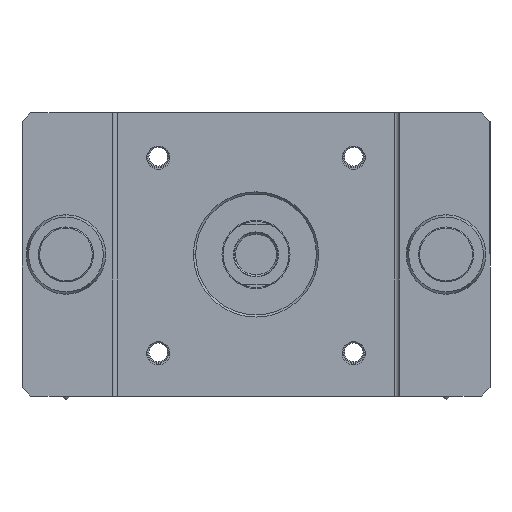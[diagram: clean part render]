
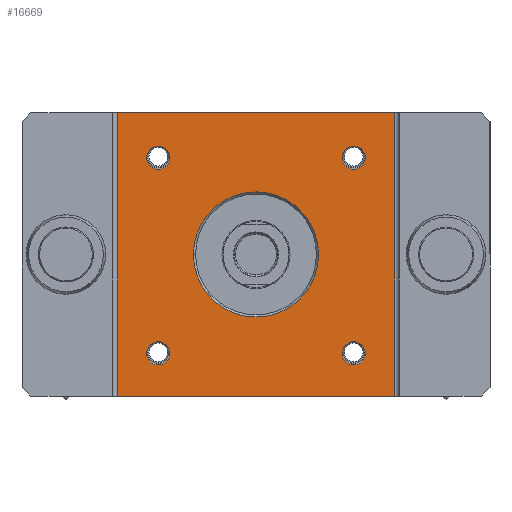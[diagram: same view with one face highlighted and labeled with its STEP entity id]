
A CAD part, left-side view. The second image highlights one B-rep face of the part: STEP entity #16669.
In plain terms, the highlighted planar face has unit normal (-1, 0, 0).
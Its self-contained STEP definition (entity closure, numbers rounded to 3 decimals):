
#163 = VERTEX_POINT ( 'NONE', #24541 ) ;
#172 = EDGE_CURVE ( 'NONE', #163, #200, #24588, .T. ) ;
#200 = VERTEX_POINT ( 'NONE', #24669 ) ;
#2889 = VERTEX_POINT ( 'NONE', #25452 ) ;
#5254 = VERTEX_POINT ( 'NONE', #25631 ) ;
#5403 = EDGE_CURVE ( 'NONE', #5254, #2889, #25630, .T. ) ;
#11423 = CARTESIAN_POINT ( 'NONE',  ( 18., 49.75, 19.5 ) ) ;
#11424 = CARTESIAN_POINT ( 'NONE',  ( 18., 39.25, 19.5 ) ) ;
#11668 = CARTESIAN_POINT ( 'NONE',  ( 18., -49.75, 108.5 ) ) ;
#11750 = DIRECTION ( 'NONE',  ( 0., 1., 0. ) ) ;
#11751 = DIRECTION ( 'NONE',  ( 1., 0., 0. ) ) ;
#11752 = AXIS2_PLACEMENT_3D ( 'NONE', #11759, #11751, #11750 ) ;
#11753 = CIRCLE ( 'NONE', #11752, 5.25 ) ;
#11759 = CARTESIAN_POINT ( 'NONE',  ( 18., 44.5, 19.5 ) ) ;
#12490 = CARTESIAN_POINT ( 'NONE',  ( 18., 39.25, 108.5 ) ) ;
#12496 = CARTESIAN_POINT ( 'NONE',  ( 18., 49.75, 108.5 ) ) ;
#12497 = DIRECTION ( 'NONE',  ( 0., 1., 0. ) ) ;
#12498 = DIRECTION ( 'NONE',  ( 1., 0., 0. ) ) ;
#12499 = CARTESIAN_POINT ( 'NONE',  ( 18., 44.5, 108.5 ) ) ;
#12500 = AXIS2_PLACEMENT_3D ( 'NONE', #12499, #12498, #12497 ) ;
#12501 = CIRCLE ( 'NONE', #12500, 5.25 ) ;
#13922 = CARTESIAN_POINT ( 'NONE',  ( 18., -39.25, 108.5 ) ) ;
#14061 = CIRCLE ( 'NONE', #14124, 5.25 ) ;
#14121 = DIRECTION ( 'NONE',  ( 0., 1., 0. ) ) ;
#14122 = DIRECTION ( 'NONE',  ( 1., 0., 0. ) ) ;
#14123 = CARTESIAN_POINT ( 'NONE',  ( 18., -44.5, 108.5 ) ) ;
#14124 = AXIS2_PLACEMENT_3D ( 'NONE', #14123, #14122, #14121 ) ;
#15201 = VERTEX_POINT ( 'NONE', #26619 ) ;
#15309 = VERTEX_POINT ( 'NONE', #26807 ) ;
#15316 = EDGE_CURVE ( 'NONE', #15309, #15201, #26863, .T. ) ;
#16669 = ADVANCED_FACE ( 'NONE', ( #29527, #29526, #29525, #29524, #29523, #29522 ), #29521, .F. ) ;
#16670 = EDGE_LOOP ( 'NONE', ( #16671, #16673 ) ) ;
#16671 = ORIENTED_EDGE ( 'NONE', *, *, #16672, .T. ) ;
#16672 = EDGE_CURVE ( 'NONE', #2889, #5254, #29516, .T. ) ;
#16673 = ORIENTED_EDGE ( 'NONE', *, *, #5403, .T. ) ;
#16674 = EDGE_LOOP ( 'NONE', ( #16736, #16738 ) ) ;
#16681 = VERTEX_POINT ( 'NONE', #29571 ) ;
#16683 = EDGE_CURVE ( 'NONE', #16684, #16681, #29570, .T. ) ;
#16684 = VERTEX_POINT ( 'NONE', #29566 ) ;
#16720 = ORIENTED_EDGE ( 'NONE', *, *, #172, .T. ) ;
#16722 = ORIENTED_EDGE ( 'NONE', *, *, #16723, .T. ) ;
#16723 = EDGE_CURVE ( 'NONE', #200, #163, #29634, .T. ) ;
#16724 = EDGE_LOOP ( 'NONE', ( #16725, #16727, #16729, #16731 ) ) ;
#16725 = ORIENTED_EDGE ( 'NONE', *, *, #15316, .F. ) ;
#16727 = ORIENTED_EDGE ( 'NONE', *, *, #16728, .T. ) ;
#16728 = EDGE_CURVE ( 'NONE', #15309, #16684, #29629, .T. ) ;
#16729 = ORIENTED_EDGE ( 'NONE', *, *, #16683, .T. ) ;
#16731 = ORIENTED_EDGE ( 'NONE', *, *, #16732, .T. ) ;
#16732 = EDGE_CURVE ( 'NONE', #16681, #15201, #29620, .T. ) ;
#16736 = ORIENTED_EDGE ( 'NONE', *, *, #16737, .T. ) ;
#16737 = EDGE_CURVE ( 'NONE', #32147, #32146, #29675, .T. ) ;
#16738 = ORIENTED_EDGE ( 'NONE', *, *, #32340, .T. ) ;
#16739 = EDGE_LOOP ( 'NONE', ( #16740, #16743 ) ) ;
#16740 = ORIENTED_EDGE ( 'NONE', *, *, #16741, .T. ) ;
#16741 = EDGE_CURVE ( 'NONE', #32741, #32744, #29670, .T. ) ;
#16743 = ORIENTED_EDGE ( 'NONE', *, *, #32739, .T. ) ;
#16744 = EDGE_LOOP ( 'NONE', ( #16745, #16747 ) ) ;
#16745 = ORIENTED_EDGE ( 'NONE', *, *, #16746, .T. ) ;
#16746 = EDGE_CURVE ( 'NONE', #33436, #32279, #29663, .T. ) ;
#16747 = ORIENTED_EDGE ( 'NONE', *, *, #33534, .T. ) ;
#16749 = EDGE_LOOP ( 'NONE', ( #16720, #16722 ) ) ;
#24541 = CARTESIAN_POINT ( 'NONE',  ( 18., -28.5, 64.5 ) ) ;
#24584 = DIRECTION ( 'NONE',  ( 0., 1., 0. ) ) ;
#24585 = DIRECTION ( 'NONE',  ( 1., 0., 0. ) ) ;
#24586 = CARTESIAN_POINT ( 'NONE',  ( 18., 0., 64.5 ) ) ;
#24587 = AXIS2_PLACEMENT_3D ( 'NONE', #24586, #24585, #24584 ) ;
#24588 = CIRCLE ( 'NONE', #24587, 28.5 ) ;
#24669 = CARTESIAN_POINT ( 'NONE',  ( 18., 28.5, 64.5 ) ) ;
#25452 = CARTESIAN_POINT ( 'NONE',  ( 18., -39.25, 19.5 ) ) ;
#25626 = DIRECTION ( 'NONE',  ( 0., 1., 0. ) ) ;
#25627 = DIRECTION ( 'NONE',  ( 1., 0., 0. ) ) ;
#25628 = CARTESIAN_POINT ( 'NONE',  ( 18., -44.5, 19.5 ) ) ;
#25629 = AXIS2_PLACEMENT_3D ( 'NONE', #25628, #25627, #25626 ) ;
#25630 = CIRCLE ( 'NONE', #25629, 5.25 ) ;
#25631 = CARTESIAN_POINT ( 'NONE',  ( 18., -49.75, 19.5 ) ) ;
#26619 = CARTESIAN_POINT ( 'NONE',  ( 18., 63.2, 0. ) ) ;
#26807 = CARTESIAN_POINT ( 'NONE',  ( 18., -63.2, 0. ) ) ;
#26860 = DIRECTION ( 'NONE',  ( 0., 1., 0. ) ) ;
#26861 = VECTOR ( 'NONE', #26860, 1000. ) ;
#26862 = CARTESIAN_POINT ( 'NONE',  ( 18., 65.2, 0. ) ) ;
#26863 = LINE ( 'NONE', #26862, #26861 ) ;
#29512 = DIRECTION ( 'NONE',  ( 0., 1., 0. ) ) ;
#29513 = DIRECTION ( 'NONE',  ( 1., 0., 0. ) ) ;
#29514 = CARTESIAN_POINT ( 'NONE',  ( 18., -44.5, 19.5 ) ) ;
#29515 = AXIS2_PLACEMENT_3D ( 'NONE', #29514, #29513, #29512 ) ;
#29516 = CIRCLE ( 'NONE', #29515, 5.25 ) ;
#29517 = DIRECTION ( 'NONE',  ( 0., 1., 0. ) ) ;
#29518 = DIRECTION ( 'NONE',  ( 1., 0., 0. ) ) ;
#29519 = CARTESIAN_POINT ( 'NONE',  ( 18., 65.2, 0. ) ) ;
#29520 = AXIS2_PLACEMENT_3D ( 'NONE', #29519, #29518, #29517 ) ;
#29521 = PLANE ( 'NONE',  #29520 ) ;
#29522 = FACE_OUTER_BOUND ( 'NONE', #16724, .T. ) ;
#29523 = FACE_BOUND ( 'NONE', #16749, .T. ) ;
#29524 = FACE_BOUND ( 'NONE', #16744, .T. ) ;
#29525 = FACE_BOUND ( 'NONE', #16739, .T. ) ;
#29526 = FACE_BOUND ( 'NONE', #16674, .T. ) ;
#29527 = FACE_BOUND ( 'NONE', #16670, .T. ) ;
#29566 = CARTESIAN_POINT ( 'NONE',  ( 18., -63.2, 129. ) ) ;
#29567 = DIRECTION ( 'NONE',  ( 0., 1., 0. ) ) ;
#29568 = VECTOR ( 'NONE', #29567, 1000. ) ;
#29569 = CARTESIAN_POINT ( 'NONE',  ( 18., 65.2, 129. ) ) ;
#29570 = LINE ( 'NONE', #29569, #29568 ) ;
#29571 = CARTESIAN_POINT ( 'NONE',  ( 18., 63.2, 129. ) ) ;
#29617 = DIRECTION ( 'NONE',  ( 0., 0., -1. ) ) ;
#29618 = VECTOR ( 'NONE', #29617, 1000. ) ;
#29619 = CARTESIAN_POINT ( 'NONE',  ( 18., 63.2, 0. ) ) ;
#29620 = LINE ( 'NONE', #29619, #29618 ) ;
#29626 = DIRECTION ( 'NONE',  ( 0., 0., 1. ) ) ;
#29627 = VECTOR ( 'NONE', #29626, 1000. ) ;
#29628 = CARTESIAN_POINT ( 'NONE',  ( 18., -63.2, 129. ) ) ;
#29629 = LINE ( 'NONE', #29628, #29627 ) ;
#29630 = DIRECTION ( 'NONE',  ( 0., 1., 0. ) ) ;
#29631 = DIRECTION ( 'NONE',  ( 1., 0., 0. ) ) ;
#29632 = CARTESIAN_POINT ( 'NONE',  ( 18., 0., 64.5 ) ) ;
#29633 = AXIS2_PLACEMENT_3D ( 'NONE', #29632, #29631, #29630 ) ;
#29634 = CIRCLE ( 'NONE', #29633, 28.5 ) ;
#29655 = DIRECTION ( 'NONE',  ( 0., 1., 0. ) ) ;
#29656 = DIRECTION ( 'NONE',  ( 1., 0., 0. ) ) ;
#29657 = CARTESIAN_POINT ( 'NONE',  ( 18., -44.5, 108.5 ) ) ;
#29658 = AXIS2_PLACEMENT_3D ( 'NONE', #29657, #29656, #29655 ) ;
#29663 = CIRCLE ( 'NONE', #29658, 5.25 ) ;
#29666 = DIRECTION ( 'NONE',  ( 0., 1., 0. ) ) ;
#29667 = DIRECTION ( 'NONE',  ( 1., 0., 0. ) ) ;
#29668 = CARTESIAN_POINT ( 'NONE',  ( 18., 44.5, 108.5 ) ) ;
#29669 = AXIS2_PLACEMENT_3D ( 'NONE', #29668, #29667, #29666 ) ;
#29670 = CIRCLE ( 'NONE', #29669, 5.25 ) ;
#29671 = DIRECTION ( 'NONE',  ( 0., 1., 0. ) ) ;
#29672 = DIRECTION ( 'NONE',  ( 1., 0., 0. ) ) ;
#29673 = CARTESIAN_POINT ( 'NONE',  ( 18., 44.5, 19.5 ) ) ;
#29674 = AXIS2_PLACEMENT_3D ( 'NONE', #29673, #29672, #29671 ) ;
#29675 = CIRCLE ( 'NONE', #29674, 5.25 ) ;
#32146 = VERTEX_POINT ( 'NONE', #11424 ) ;
#32147 = VERTEX_POINT ( 'NONE', #11423 ) ;
#32279 = VERTEX_POINT ( 'NONE', #11668 ) ;
#32340 = EDGE_CURVE ( 'NONE', #32146, #32147, #11753, .T. ) ;
#32739 = EDGE_CURVE ( 'NONE', #32744, #32741, #12501, .T. ) ;
#32741 = VERTEX_POINT ( 'NONE', #12496 ) ;
#32744 = VERTEX_POINT ( 'NONE', #12490 ) ;
#33436 = VERTEX_POINT ( 'NONE', #13922 ) ;
#33534 = EDGE_CURVE ( 'NONE', #32279, #33436, #14061, .T. ) ;
